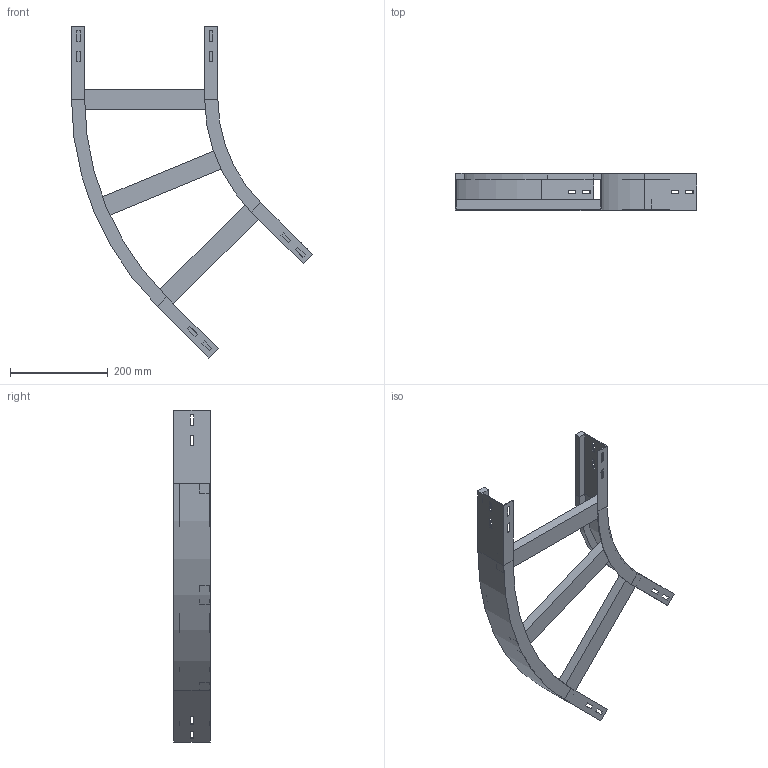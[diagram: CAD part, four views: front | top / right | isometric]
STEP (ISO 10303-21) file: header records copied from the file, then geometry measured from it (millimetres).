
FILE_DESCRIPTION (( 'STEP AP214' ), '1' );
FILE_NAME ('A2_11B3C300.step', '2025-02-21T15:15:58', ( '' ), ( '' ), 'SwSTEP 2.0', 'SolidWorks 2023', '' );
FILE_SCHEMA (( 'AUTOMOTIVE_DESIGN' ));
Length unit declared in the file: millimetre
Products named in the file (4): A2_11B3C300; A2_LONGH.ESTERNO 45°_H75_R300+300; TRAVERSINO_300; A2_LONGH.INTERNO 45°_H75_R300
Assembly tree (5 placements, depth 2):
  A2_11B3C300
    A2_LONGH.INTERNO 45°_H75_R300
    A2_LONGH.ESTERNO 45°_H75_R300+300
    TRAVERSINO_300  x3
Bounding box: 493.93 x 75 x 680.33 mm (x, y, z)
Volume: 1226640.5 mm3; surface area: 419222.6 mm2
Topology: 5 solids, 5 shells, 134 faces, 340 edges, 216 vertices
Faces by surface type: plane 126, cylinder 8
Entity records: 3821 total; most frequent: CARTESIAN_POINT 646, ORIENTED_EDGE 632, DIRECTION 592, EDGE_CURVE 316, LINE 300, VECTOR 300, VERTEX_POINT 200, EDGE_LOOP 154
